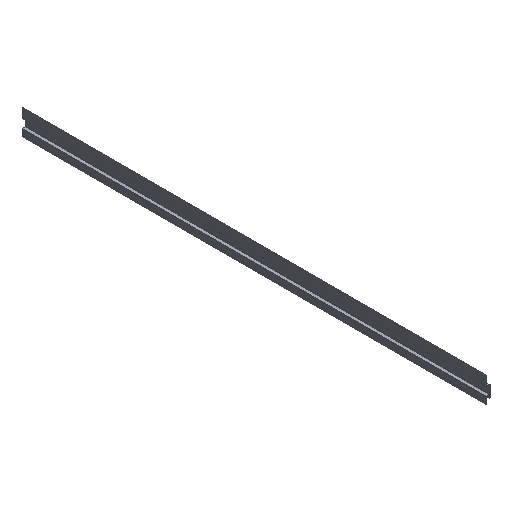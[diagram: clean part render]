
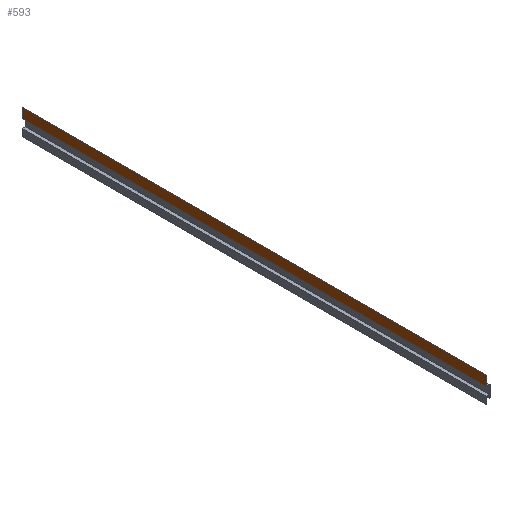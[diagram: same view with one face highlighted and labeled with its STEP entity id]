
A CAD part, isometric view. The second image highlights one B-rep face of the part: STEP entity #593.
In plain terms, the highlighted planar face has unit normal (-1, 0, 0).
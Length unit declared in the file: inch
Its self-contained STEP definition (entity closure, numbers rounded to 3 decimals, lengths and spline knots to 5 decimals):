
#71=FACE_OUTER_BOUND('',#103,.T.);
#103=EDGE_LOOP('',(#491,#492,#493,#494));
#163=LINE('',#981,#227);
#164=LINE('',#984,#228);
#165=LINE('',#986,#229);
#166=LINE('',#987,#230);
#227=VECTOR('',#804,0.3937);
#228=VECTOR('',#807,0.3937);
#229=VECTOR('',#808,0.3937);
#230=VECTOR('',#809,0.3937);
#283=VERTEX_POINT('',#977);
#284=VERTEX_POINT('',#979);
#285=VERTEX_POINT('',#983);
#286=VERTEX_POINT('',#985);
#361=EDGE_CURVE('',#283,#284,#163,.T.);
#362=EDGE_CURVE('',#285,#283,#164,.T.);
#363=EDGE_CURVE('',#286,#284,#165,.T.);
#364=EDGE_CURVE('',#285,#286,#166,.T.);
#491=ORIENTED_EDGE('',*,*,#362,.T.);
#492=ORIENTED_EDGE('',*,*,#361,.T.);
#493=ORIENTED_EDGE('',*,*,#363,.F.);
#494=ORIENTED_EDGE('',*,*,#364,.F.);
#564=PLANE('',#660);
#593=ADVANCED_FACE('',(#71),#564,.T.);
#660=AXIS2_PLACEMENT_3D('',#982,#805,#806);
#804=DIRECTION('',(0.,1.,0.));
#805=DIRECTION('center_axis',(-1.,0.,0.));
#806=DIRECTION('ref_axis',(0.,0.,1.));
#807=DIRECTION('',(0.,0.,1.));
#808=DIRECTION('',(0.,0.,1.));
#809=DIRECTION('',(0.,1.,0.));
#977=CARTESIAN_POINT('',(0.02961,0.,0.29018));
#979=CARTESIAN_POINT('',(0.02961,120.,0.29018));
#981=CARTESIAN_POINT('',(0.02961,0.,0.29018));
#982=CARTESIAN_POINT('Origin',(0.02961,0.,-2.23577));
#983=CARTESIAN_POINT('',(0.02961,0.,-2.23577));
#984=CARTESIAN_POINT('',(0.02961,0.,-2.23577));
#985=CARTESIAN_POINT('',(0.02961,120.,-2.23577));
#986=CARTESIAN_POINT('',(0.02961,120.,-2.23577));
#987=CARTESIAN_POINT('',(0.02961,0.,-2.23577));
